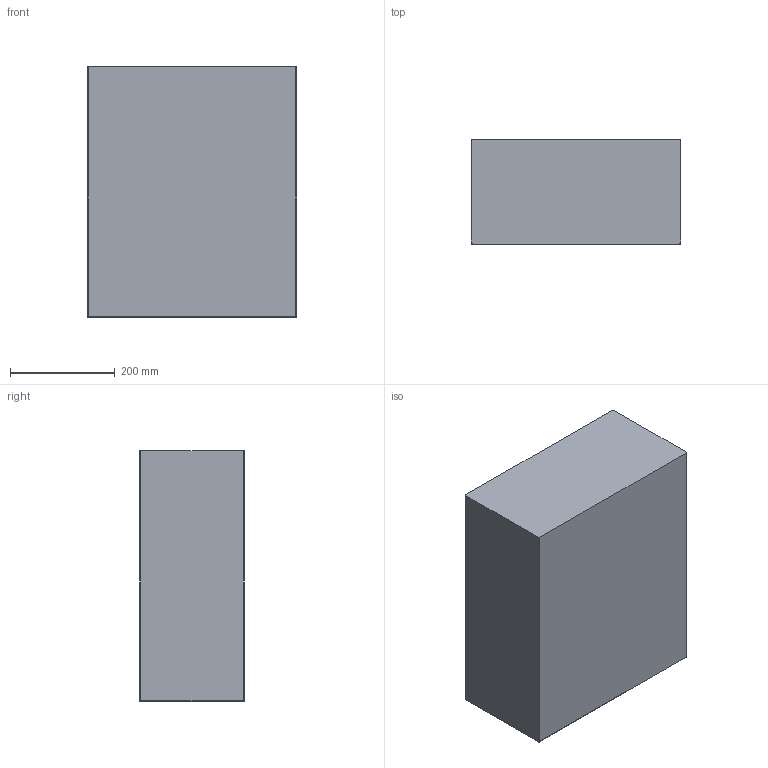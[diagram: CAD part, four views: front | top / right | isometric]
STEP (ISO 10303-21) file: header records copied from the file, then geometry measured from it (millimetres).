
FILE_DESCRIPTION(('CATIA V5 STEP Exchange'),'2;1');
FILE_NAME('C:\Users\Luca\Downloads\mobili next\7524\3D_7524.stp','2023-01-31T14:17:24+00:00',('none'),('none'),'CATIA Version 5 Release 19 SP 5 (IN-10)','CATIA V5 STEP AP214','none');
FILE_SCHEMA(('AUTOMOTIVE_DESIGN { 1 0 10303 214 1 1 1 1 }'));
Length unit declared in the file: millimetre
Products named in the file (1): ART. 7524
Bounding box: 400 x 200 x 480 mm (x, y, z)
Volume: 11227860.6 mm3; surface area: 1204486.3 mm2
Topology: 1 solids, 1 shells, 73 faces, 164 edges, 86 vertices
Faces by surface type: cylinder 28, bspline 20, plane 15, sphere 8, torus 2
Entity records: 3211 total; most frequent: CARTESIAN_POINT 1817, ORIENTED_EDGE 312, DIRECTION 207, EDGE_CURVE 156, AXIS2_PLACEMENT_3D 98, VERTEX_POINT 86, EDGE_LOOP 74, ADVANCED_FACE 73
